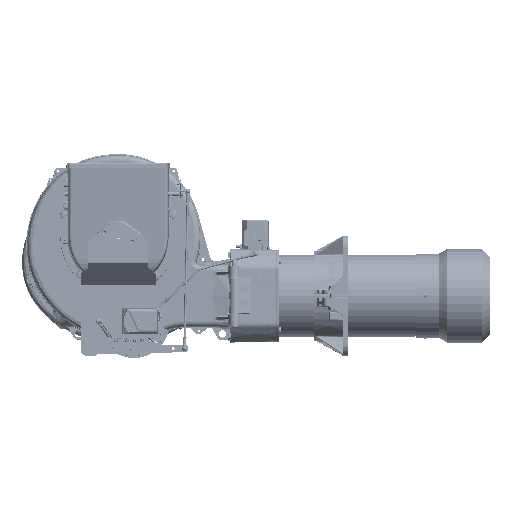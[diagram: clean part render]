
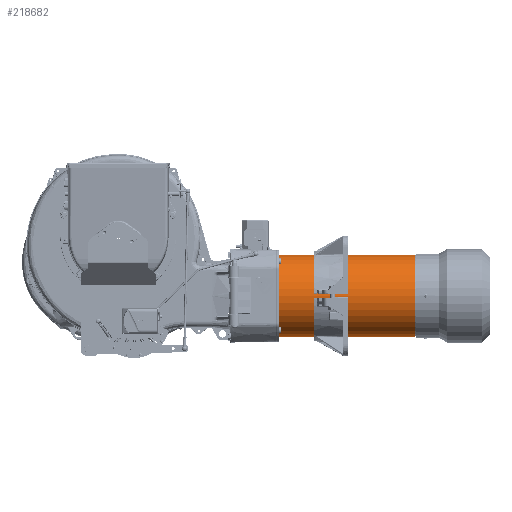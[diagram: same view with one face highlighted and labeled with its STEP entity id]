
A CAD part, top view. The second image highlights one B-rep face of the part: STEP entity #218682.
In plain terms, the highlighted cylindrical face has radius 109.5 mm (diameter 219 mm), a full revolution.
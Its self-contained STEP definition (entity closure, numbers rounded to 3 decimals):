
#52549 = DIRECTION ( 'NONE',  ( -1., 0., 0. ) ) ;
#55009 = CIRCLE ( 'NONE', #106324, 109.5 ) ;
#72257 = FACE_OUTER_BOUND ( 'NONE', #146655, .T. ) ;
#75645 = CARTESIAN_POINT ( 'NONE',  ( 372., 0., 0. ) ) ;
#95735 = AXIS2_PLACEMENT_3D ( 'NONE', #392202, #52549, #236495 ) ;
#106324 = AXIS2_PLACEMENT_3D ( 'NONE', #138957, #169829, #294644 ) ;
#114060 = VERTEX_POINT ( 'NONE', #180088 ) ;
#136781 = EDGE_CURVE ( 'NONE', #114060, #114060, #389641, .T. ) ;
#138957 = CARTESIAN_POINT ( 'NONE',  ( 3., 0., 0. ) ) ;
#146655 = EDGE_LOOP ( 'NONE', ( #190491 ) ) ;
#169829 = DIRECTION ( 'NONE',  ( -1., 0., 0. ) ) ;
#174215 = EDGE_CURVE ( 'NONE', #286760, #286760, #55009, .T. ) ;
#180088 = CARTESIAN_POINT ( 'NONE',  ( 372., 0., 109.5 ) ) ;
#182859 = FACE_OUTER_BOUND ( 'NONE', #250290, .T. ) ;
#190491 = ORIENTED_EDGE ( 'NONE', *, *, #136781, .T. ) ;
#201656 = CYLINDRICAL_SURFACE ( 'NONE', #95735, 109.5 ) ;
#218682 = ADVANCED_FACE ( 'NONE', ( #72257, #182859 ), #201656, .T. ) ;
#236495 = DIRECTION ( 'NONE',  ( 0., 0., 1. ) ) ;
#242884 = AXIS2_PLACEMENT_3D ( 'NONE', #75645, #318716, #379011 ) ;
#248398 = CARTESIAN_POINT ( 'NONE',  ( 3., 0., 109.5 ) ) ;
#250290 = EDGE_LOOP ( 'NONE', ( #346475 ) ) ;
#286760 = VERTEX_POINT ( 'NONE', #248398 ) ;
#294644 = DIRECTION ( 'NONE',  ( 0., 0., 1. ) ) ;
#318716 = DIRECTION ( 'NONE',  ( -1., 0., 0. ) ) ;
#346475 = ORIENTED_EDGE ( 'NONE', *, *, #174215, .F. ) ;
#379011 = DIRECTION ( 'NONE',  ( 0., 0., 1. ) ) ;
#389641 = CIRCLE ( 'NONE', #242884, 109.5 ) ;
#392202 = CARTESIAN_POINT ( 'NONE',  ( 0., 0., 0. ) ) ;
